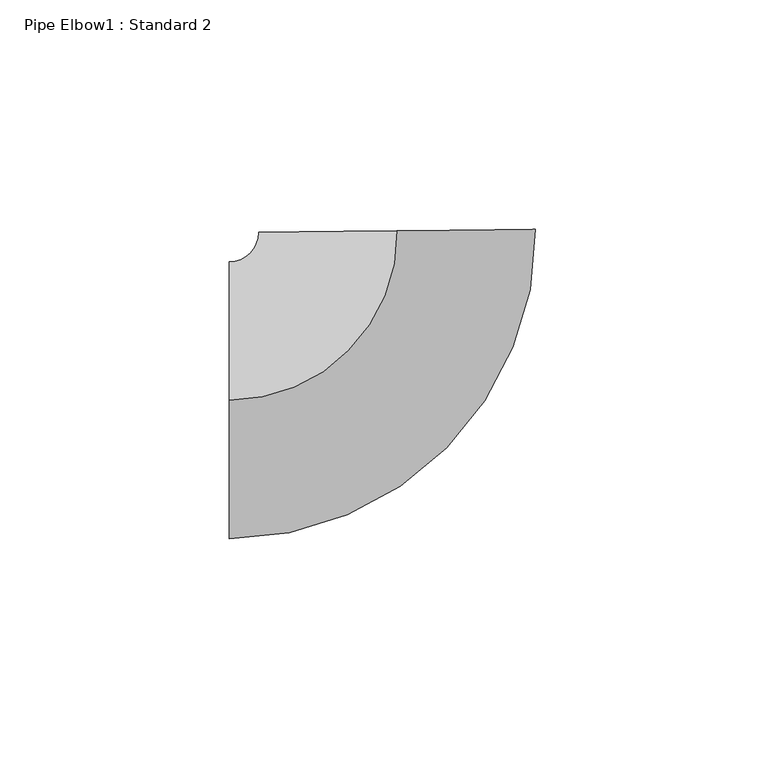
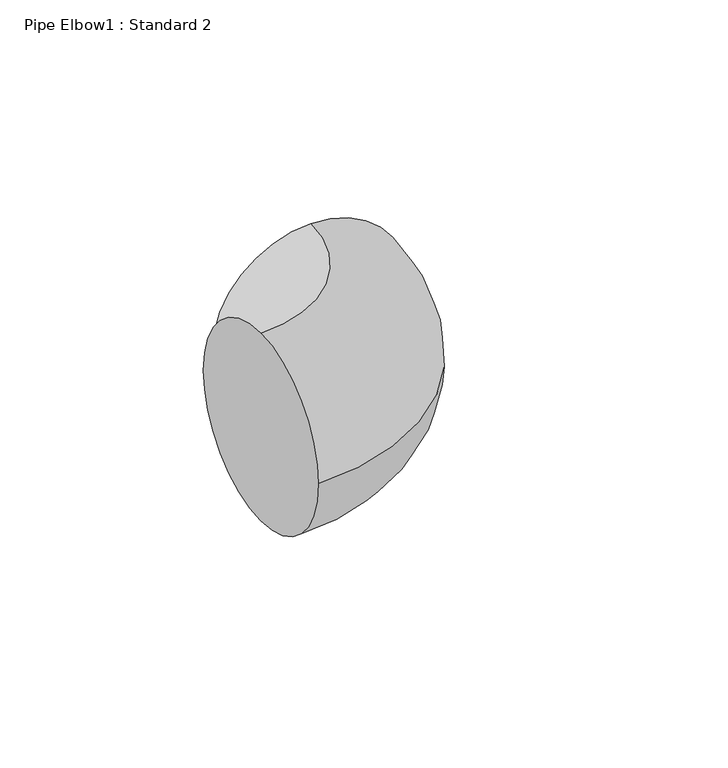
"""IFC4 building model written with IfcOpenShell, lengths in millimetres: pipe fitting geometry, Pipe Elbow1 : Standard 2."""

from ifc_helpers import new_model, si_unit, point, frame, origin, place, context, project, spatial, circle_curve, ellipse_curve, trimmed, source, transform, mapped, element, save
from ifc_brep_helpers import plane_surface, revolved_surface, advanced_brep


def pipe_elbow1_standard_2_1c0ee581(model_context):
    return source(origin(), model_context, "Body", "AdvancedBrep", [
        advanced_brep(
        [(-36.8948194, 0.0, 30.1625), (-36.8948194, 30.1625, 0.0), (-36.8948194, 0.0, -30.1625), (-36.8948194, -30.1625, 0.0), (-0.3843002, 36.8928179, 30.1625), (29.7765635, 37.2069936, 0.0), (-0.3843002, 36.8928179, -30.1625), (-30.5451639, 36.5786422, 0.0)],
        [
            (0, 1, circle_curve(frame((-36.8948194, 0.0, 0.0), z_axis=(-1.0, 0.0, 0.0), x_axis=(0.0, 1.0, 0.0)), 30.1625)),
            (1, 2, circle_curve(frame((-36.8948194, 0.0, 0.0), z_axis=(-1.0, 0.0, 0.0), x_axis=(0.0, 1.0, 0.0)), 30.1625)),
            (2, 3, circle_curve(frame((-36.8948194, 0.0, 0.0), z_axis=(-1.0, 0.0, 0.0), x_axis=(0.0, 1.0, 0.0)), 30.1625)),
            (3, 0, circle_curve(frame((-36.8948194, 0.0, 0.0), z_axis=(-1.0, 0.0, 0.0), x_axis=(0.0, 1.0, 0.0)), 30.1625)),
            (4, 5, circle_curve(frame((-0.3843002, 36.8928179, 0.0), z_axis=(-0.010416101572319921, 0.9999457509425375, 0.0), x_axis=(-0.9999457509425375, -0.010416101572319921, 0.0)), 30.1625)),
            (5, 6, circle_curve(frame((-0.3843002, 36.8928179, 0.0), z_axis=(-0.010416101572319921, 0.9999457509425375, 0.0), x_axis=(-0.9999457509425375, -0.010416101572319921, 0.0)), 30.1625)),
            (6, 7, circle_curve(frame((-0.3843002, 36.8928179, 0.0), z_axis=(-0.010416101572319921, 0.9999457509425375, 0.0), x_axis=(-0.9999457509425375, -0.010416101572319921, 0.0)), 30.1625)),
            (7, 4, circle_curve(frame((-0.3843002, 36.8928179, 0.0), z_axis=(-0.010416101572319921, 0.9999457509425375, 0.0), x_axis=(-0.9999457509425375, -0.010416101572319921, 0.0)), 30.1625)),
            (7, 1, circle_curve(frame((-36.8948194, 36.5125, 0.0), z_axis=(0.0, 0.0, -1.0), x_axis=(0.0, -1.0, 0.0)), 6.35)),
            (0, 4, circle_curve(frame((-36.8948194, 36.5125, 30.1625), z_axis=(0.0, 0.0, 1.0), x_axis=(0.0, -1.0, 0.0)), 36.5125)),
            (6, 2, circle_curve(frame((-36.8948194, 36.5125, -30.1625), z_axis=(0.0, 0.0, -1.0), x_axis=(0.0, -1.0, 0.0)), 36.5125)),
            (5, 3, circle_curve(frame((-36.8948194, 36.5125, 0.0), z_axis=(0.0, 0.0, -1.0), x_axis=(0.0, -1.0, 0.0)), 66.675)),
        ],
        [
            plane_surface(frame((-36.8948194, 0.0, 0.0), z_axis=(-1.0, 0.0, 0.0), x_axis=(0.0, 0.0, 1.0))),
            plane_surface(frame((-0.3843002, 36.8928179, 0.0), z_axis=(-0.01041610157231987, 0.9999457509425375, 0.0), x_axis=(0.0, 0.0, 1.0))),
            revolved_surface(trimmed(ellipse_curve(frame((-36.8948194, 0.0, 0.0), z_axis=(-1.0, 0.0, 0.0), x_axis=(0.0, 1.0, 0.0)), 30.1625, 30.1625), [point((-36.8948194, 0.0, 30.1625))], [point((-36.8948194, 30.1625, 0.0))], True, "CARTESIAN"), (-36.8948194, 36.5125, 0.0), (0.0, 0.0, 1.0)),
            revolved_surface(trimmed(ellipse_curve(frame((-36.8948194, 0.0, 0.0), z_axis=(-1.0, 0.0, 0.0), x_axis=(0.0, 1.0, 0.0)), 30.1625, 30.1625), [point((-36.8948194, 30.1625, 0.0))], [point((-36.8948194, 0.0, -30.1625))], True, "CARTESIAN"), (-36.8948194, 36.5125, 0.0), (0.0, 0.0, 1.0)),
            revolved_surface(trimmed(ellipse_curve(frame((-36.8948194, 0.0, 0.0), z_axis=(-1.0, 0.0, 0.0), x_axis=(0.0, 1.0, 0.0)), 30.1625, 30.1625), [point((-36.8948194, 0.0, -30.1625))], [point((-36.8948194, -30.1625, 0.0))], True, "CARTESIAN"), (-36.8948194, 36.5125, 0.0), (0.0, 0.0, 1.0)),
            revolved_surface(trimmed(ellipse_curve(frame((-36.8948194, 0.0, 0.0), z_axis=(-1.0, 0.0, 0.0), x_axis=(0.0, 1.0, 0.0)), 30.1625, 30.1625), [point((-36.8948194, -30.1625, 0.0))], [point((-36.8948194, 0.0, 30.1625))], True, "CARTESIAN"), (-36.8948194, 36.5125, 0.0), (0.0, 0.0, 1.0)),
        ],
        [
            (0, [[1, 2, 3, 4]]),
            (1, [[5, 6, 7, 8]]),
            (2, [[9, -1, 10, -8]]),
            (3, [[11, -2, -9, -7]]),
            (4, [[12, -3, -11, -6]]),
            (5, [[-10, -4, -12, -5]]),
        ],
    ),
        advanced_brep(
        [(-36.8948194, 0.0, 30.1625), (-36.8948194, 30.1625, 0.0), (-36.8948194, 0.0, -30.1625), (-36.8948194, -30.1625, 0.0), (-0.3843002, 36.8928179, 30.1625), (29.7765635, 37.2069936, 0.0), (-0.3843002, 36.8928179, -30.1625), (-30.5451639, 36.5786422, 0.0)],
        [
            (0, 1, circle_curve(frame((-36.8948194, 0.0, 0.0), z_axis=(-1.0, 0.0, 0.0), x_axis=(0.0, 1.0, 0.0)), 30.1625)),
            (1, 2, circle_curve(frame((-36.8948194, 0.0, 0.0), z_axis=(-1.0, 0.0, 0.0), x_axis=(0.0, 1.0, 0.0)), 30.1625)),
            (2, 3, circle_curve(frame((-36.8948194, 0.0, 0.0), z_axis=(-1.0, 0.0, 0.0), x_axis=(0.0, 1.0, 0.0)), 30.1625)),
            (3, 0, circle_curve(frame((-36.8948194, 0.0, 0.0), z_axis=(-1.0, 0.0, 0.0), x_axis=(0.0, 1.0, 0.0)), 30.1625)),
            (4, 5, circle_curve(frame((-0.3843002, 36.8928179, 0.0), z_axis=(-0.010416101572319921, 0.9999457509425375, 0.0), x_axis=(-0.9999457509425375, -0.010416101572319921, 0.0)), 30.1625)),
            (5, 6, circle_curve(frame((-0.3843002, 36.8928179, 0.0), z_axis=(-0.010416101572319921, 0.9999457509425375, 0.0), x_axis=(-0.9999457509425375, -0.010416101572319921, 0.0)), 30.1625)),
            (6, 7, circle_curve(frame((-0.3843002, 36.8928179, 0.0), z_axis=(-0.010416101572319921, 0.9999457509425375, 0.0), x_axis=(-0.9999457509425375, -0.010416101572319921, 0.0)), 30.1625)),
            (7, 4, circle_curve(frame((-0.3843002, 36.8928179, 0.0), z_axis=(-0.010416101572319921, 0.9999457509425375, 0.0), x_axis=(-0.9999457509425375, -0.010416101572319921, 0.0)), 30.1625)),
            (7, 1, circle_curve(frame((-36.8948194, 36.5125, 0.0), z_axis=(0.0, 0.0, -1.0), x_axis=(0.0, -1.0, 0.0)), 6.35)),
            (0, 4, circle_curve(frame((-36.8948194, 36.5125, 30.1625), z_axis=(0.0, 0.0, 1.0), x_axis=(0.0, -1.0, 0.0)), 36.5125)),
            (6, 2, circle_curve(frame((-36.8948194, 36.5125, -30.1625), z_axis=(0.0, 0.0, -1.0), x_axis=(0.0, -1.0, 0.0)), 36.5125)),
            (5, 3, circle_curve(frame((-36.8948194, 36.5125, 0.0), z_axis=(0.0, 0.0, -1.0), x_axis=(0.0, -1.0, 0.0)), 66.675)),
        ],
        [
            plane_surface(frame((-36.8948194, 0.0, 0.0), z_axis=(-1.0, 0.0, 0.0), x_axis=(0.0, 0.0, 1.0))),
            plane_surface(frame((-0.3843002, 36.8928179, 0.0), z_axis=(-0.01041610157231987, 0.9999457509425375, 0.0), x_axis=(0.0, 0.0, 1.0))),
            revolved_surface(trimmed(ellipse_curve(frame((-36.8948194, 0.0, 0.0), z_axis=(-1.0, 0.0, 0.0), x_axis=(0.0, 1.0, 0.0)), 30.1625, 30.1625), [point((-36.8948194, 0.0, 30.1625))], [point((-36.8948194, 30.1625, 0.0))], True, "CARTESIAN"), (-36.8948194, 36.5125, 0.0), (0.0, 0.0, 1.0)),
            revolved_surface(trimmed(ellipse_curve(frame((-36.8948194, 0.0, 0.0), z_axis=(-1.0, 0.0, 0.0), x_axis=(0.0, 1.0, 0.0)), 30.1625, 30.1625), [point((-36.8948194, 30.1625, 0.0))], [point((-36.8948194, 0.0, -30.1625))], True, "CARTESIAN"), (-36.8948194, 36.5125, 0.0), (0.0, 0.0, 1.0)),
            revolved_surface(trimmed(ellipse_curve(frame((-36.8948194, 0.0, 0.0), z_axis=(-1.0, 0.0, 0.0), x_axis=(0.0, 1.0, 0.0)), 30.1625, 30.1625), [point((-36.8948194, 0.0, -30.1625))], [point((-36.8948194, -30.1625, 0.0))], True, "CARTESIAN"), (-36.8948194, 36.5125, 0.0), (0.0, 0.0, 1.0)),
            revolved_surface(trimmed(ellipse_curve(frame((-36.8948194, 0.0, 0.0), z_axis=(-1.0, 0.0, 0.0), x_axis=(0.0, 1.0, 0.0)), 30.1625, 30.1625), [point((-36.8948194, -30.1625, 0.0))], [point((-36.8948194, 0.0, 30.1625))], True, "CARTESIAN"), (-36.8948194, 36.5125, 0.0), (0.0, 0.0, 1.0)),
        ],
        [
            (0, [[1, 2, 3, 4]]),
            (1, [[5, 6, 7, 8]]),
            (2, [[9, -1, 10, -8]]),
            (3, [[11, -2, -9, -7]]),
            (4, [[12, -3, -11, -6]]),
            (5, [[-10, -4, -12, -5]]),
        ],
    ),
    ])


if __name__ == "__main__":
    model = new_model("IFC4")
    model_context = context("Model", 3, world=origin())
    ifc_project = project(units=[si_unit("LENGTHUNIT", "METRE", prefix="MILLI")], contexts=[model_context])
    site = spatial("IfcSite", under=ifc_project)
    building = spatial("IfcBuilding", under=site)
    placement = place(None, origin())
    pipe_elbow1_standard_2_shape = pipe_elbow1_standard_2_1c0ee581(model_context)
    element("IfcPipeFitting", 1, ObjectType="Pipe Elbow1 : Standard 2", at=placement, inside=building, context=model_context, shape_type="MappedRepresentation", body=[
        mapped(pipe_elbow1_standard_2_shape, transform((0.0, 0.0, 0.0), x_axis=(1.0, 0.0, 0.0), y_axis=(0.0, 1.0, 0.0), z_axis=(0.0, 0.0, 1.0))),
    ])
    save(model, "model.ifc")
